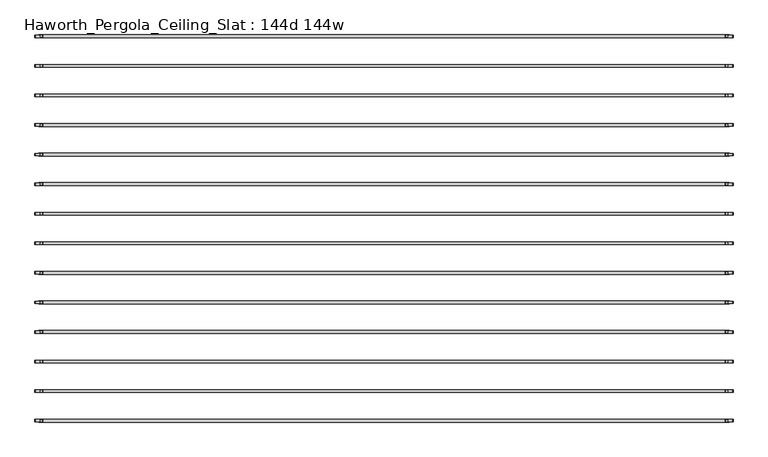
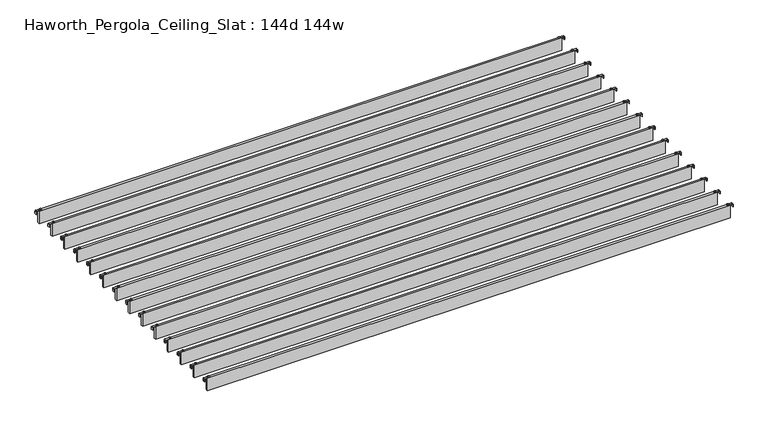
"""IFC4 building model written with IfcOpenShell, lengths in millimetres: furniture geometry, Haworth_Pergola_Ceiling_Slat : 144d 144w."""

from ifc_helpers import new_model, si_unit, point, frame, frame_2d, origin, place, context, project, spatial, polyline, circle_curve, trimmed, segment, composite_curve, outline, extrude, source, transform, mapped, element, save


def haworth_pergola_ceiling_slat_144d_144w_cf5a7e63(model_context):
    return source(origin(), model_context, "Body", "SweptSolid", [
        extrude(outline(composite_curve([segment(trimmed(circle_curve(frame_2d((1853.2, 307.8756087)), 5.9838099), [point((1847.2161901, 307.8756087))], [point((1859.1838099, 307.8756087))], False, "CARTESIAN"), True, "CONTINUOUS"), segment(trimmed(circle_curve(frame_2d((1853.2, 307.8756087)), 5.9838099), [point((1859.1838099, 307.8756087))], [point((1847.2161901, 307.8756087))], False, "CARTESIAN"), True, "CONTINUOUS")], self_intersect=False)), frame((0.0, 0.0, 2440.9329992), z_axis=(0.0, 0.0, 1.0), x_axis=(1.0, 0.0, 0.0)), (0.0, 0.0, 1.0), 3.4400008),
        extrude(outline(composite_curve([segment(trimmed(circle_curve(frame_2d((-1777.0, 307.8756087)), 5.9838099), [point((-1771.0161901, 307.8756087))], [point((-1782.9838099, 307.8756087))], False, "CARTESIAN"), True, "CONTINUOUS"), segment(trimmed(circle_curve(frame_2d((-1777.0, 307.8756087)), 5.9838099), [point((-1782.9838099, 307.8756087))], [point((-1771.0161901, 307.8756087))], False, "CARTESIAN"), True, "CONTINUOUS")], self_intersect=False)), frame((0.0, 0.0, 2440.9329992), z_axis=(0.0, 0.0, 1.0), x_axis=(1.0, 0.0, 0.0)), (0.0, 0.0, 1.0), 3.4400008),
        extrude(outline(composite_curve([segment(polyline([(2419.2231711, 1887.36), (2437.2499992, 1887.36)]), True, "CONTINUOUS"), segment(trimmed(circle_curve(frame_2d((2437.2499992, 1883.677)), 3.683), [point((2437.2499992, 1887.36))], [point((2440.9329992, 1883.677))], False, "CARTESIAN"), True, "CONTINUOUS"), segment(polyline([(2440.9329992, 1883.677), (2440.9329992, 1846.7), (2438.2729997, 1846.7), (2438.2729997, 1883.6905568)]), True, "CONTINUOUS"), segment(trimmed(circle_curve(frame_2d((2437.2635571, 1883.6905568)), 1.0094425), [point((2438.2729997, 1883.6905568))], [point((2437.2635571, 1884.6999993))], True, "CARTESIAN"), True, "CONTINUOUS"), segment(polyline([(2437.2635571, 1884.6999993), (2419.2231711, 1884.6999993), (2419.2231711, 1887.36)]), True, "CONTINUOUS")], self_intersect=False)), frame((0.0, 301.3826084, 0.0), z_axis=(0.0, 1.0, 0.0), x_axis=(0.0, 0.0, 1.0)), (0.0, 0.0, 1.0), 13.0),
        extrude(outline(composite_curve([segment(polyline([(2419.2231711, -1811.16), (2419.2231711, -1808.4999993), (2437.2635571, -1808.4999993)]), True, "CONTINUOUS"), segment(trimmed(circle_curve(frame_2d((2437.2635571, -1807.4905568)), 1.0094425), [point((2437.2635571, -1808.4999993))], [point((2438.2729997, -1807.4905568))], True, "CARTESIAN"), True, "CONTINUOUS"), segment(polyline([(2438.2729997, -1807.4905568), (2438.2729997, -1770.5), (2440.9329992, -1770.5), (2440.9329992, -1807.477)]), True, "CONTINUOUS"), segment(trimmed(circle_curve(frame_2d((2437.2499992, -1807.477)), 3.683), [point((2440.9329992, -1807.477))], [point((2437.2499992, -1811.16))], False, "CARTESIAN"), True, "CONTINUOUS"), segment(polyline([(2437.2499992, -1811.16), (2419.2231711, -1811.16)]), True, "CONTINUOUS")], self_intersect=False)), frame((0.0, 301.3826084, 0.0), z_axis=(0.0, 1.0, 0.0), x_axis=(0.0, 0.0, 1.0)), (0.0, 0.0, 1.0), 13.0),
        extrude(outline(polyline([(-1790.7, 300.3826087), (-1790.7, 315.3686087), (1866.9, 315.3686087), (1866.9, 300.3826087), (-1790.7, 300.3826087)])), frame((0.0, 0.0, 2346.198), z_axis=(0.0, 0.0, 1.0), x_axis=(1.0, 0.0, 0.0)), (0.0, 0.0, 1.0), 92.202),
        extrude(outline(composite_curve([segment(trimmed(circle_curve(frame_2d((1853.2, 151.0582174)), 5.9838099), [point((1847.2161901, 151.0582174))], [point((1859.1838099, 151.0582174))], False, "CARTESIAN"), True, "CONTINUOUS"), segment(trimmed(circle_curve(frame_2d((1853.2, 151.0582174)), 5.9838099), [point((1859.1838099, 151.0582174))], [point((1847.2161901, 151.0582174))], False, "CARTESIAN"), True, "CONTINUOUS")], self_intersect=False)), frame((0.0, 0.0, 2440.9329992), z_axis=(0.0, 0.0, 1.0), x_axis=(1.0, 0.0, 0.0)), (0.0, 0.0, 1.0), 3.4400008),
        extrude(outline(composite_curve([segment(trimmed(circle_curve(frame_2d((-1777.0, 151.0582174)), 5.9838099), [point((-1771.0161901, 151.0582174))], [point((-1782.9838099, 151.0582174))], False, "CARTESIAN"), True, "CONTINUOUS"), segment(trimmed(circle_curve(frame_2d((-1777.0, 151.0582174)), 5.9838099), [point((-1782.9838099, 151.0582174))], [point((-1771.0161901, 151.0582174))], False, "CARTESIAN"), True, "CONTINUOUS")], self_intersect=False)), frame((0.0, 0.0, 2440.9329992), z_axis=(0.0, 0.0, 1.0), x_axis=(1.0, 0.0, 0.0)), (0.0, 0.0, 1.0), 3.4400008),
        extrude(outline(composite_curve([segment(polyline([(2419.2231711, 1887.36), (2437.2499992, 1887.36)]), True, "CONTINUOUS"), segment(trimmed(circle_curve(frame_2d((2437.2499992, 1883.677)), 3.683), [point((2437.2499992, 1887.36))], [point((2440.9329992, 1883.677))], False, "CARTESIAN"), True, "CONTINUOUS"), segment(polyline([(2440.9329992, 1883.677), (2440.9329992, 1846.7), (2438.2729997, 1846.7), (2438.2729997, 1883.6905568)]), True, "CONTINUOUS"), segment(trimmed(circle_curve(frame_2d((2437.2635571, 1883.6905568)), 1.0094425), [point((2438.2729997, 1883.6905568))], [point((2437.2635571, 1884.6999993))], True, "CARTESIAN"), True, "CONTINUOUS"), segment(polyline([(2437.2635571, 1884.6999993), (2419.2231711, 1884.6999993), (2419.2231711, 1887.36)]), True, "CONTINUOUS")], self_intersect=False)), frame((0.0, 144.5652171, 0.0), z_axis=(0.0, 1.0, 0.0), x_axis=(0.0, 0.0, 1.0)), (0.0, 0.0, 1.0), 13.0),
        extrude(outline(composite_curve([segment(polyline([(2419.2231711, -1811.16), (2419.2231711, -1808.4999993), (2437.2635571, -1808.4999993)]), True, "CONTINUOUS"), segment(trimmed(circle_curve(frame_2d((2437.2635571, -1807.4905568)), 1.0094425), [point((2437.2635571, -1808.4999993))], [point((2438.2729997, -1807.4905568))], True, "CARTESIAN"), True, "CONTINUOUS"), segment(polyline([(2438.2729997, -1807.4905568), (2438.2729997, -1770.5), (2440.9329992, -1770.5), (2440.9329992, -1807.477)]), True, "CONTINUOUS"), segment(trimmed(circle_curve(frame_2d((2437.2499992, -1807.477)), 3.683), [point((2440.9329992, -1807.477))], [point((2437.2499992, -1811.16))], False, "CARTESIAN"), True, "CONTINUOUS"), segment(polyline([(2437.2499992, -1811.16), (2419.2231711, -1811.16)]), True, "CONTINUOUS")], self_intersect=False)), frame((0.0, 144.5652171, 0.0), z_axis=(0.0, 1.0, 0.0), x_axis=(0.0, 0.0, 1.0)), (0.0, 0.0, 1.0), 13.0),
        extrude(outline(polyline([(-1790.7, 143.5652174), (-1790.7, 158.5512174), (1866.9, 158.5512174), (1866.9, 143.5652174), (-1790.7, 143.5652174)])), frame((0.0, 0.0, 2346.198), z_axis=(0.0, 0.0, 1.0), x_axis=(1.0, 0.0, 0.0)), (0.0, 0.0, 1.0), 92.202),
        extrude(outline(composite_curve([segment(trimmed(circle_curve(frame_2d((1853.2, -5.7591739)), 5.9838099), [point((1847.2161901, -5.7591739))], [point((1859.1838099, -5.7591739))], False, "CARTESIAN"), True, "CONTINUOUS"), segment(trimmed(circle_curve(frame_2d((1853.2, -5.7591739)), 5.9838099), [point((1859.1838099, -5.7591739))], [point((1847.2161901, -5.7591739))], False, "CARTESIAN"), True, "CONTINUOUS")], self_intersect=False)), frame((0.0, 0.0, 2440.9329992), z_axis=(0.0, 0.0, 1.0), x_axis=(1.0, 0.0, 0.0)), (0.0, 0.0, 1.0), 3.4400008),
        extrude(outline(composite_curve([segment(trimmed(circle_curve(frame_2d((-1777.0, -5.7591739)), 5.9838099), [point((-1771.0161901, -5.7591739))], [point((-1782.9838099, -5.7591739))], False, "CARTESIAN"), True, "CONTINUOUS"), segment(trimmed(circle_curve(frame_2d((-1777.0, -5.7591739)), 5.9838099), [point((-1782.9838099, -5.7591739))], [point((-1771.0161901, -5.7591739))], False, "CARTESIAN"), True, "CONTINUOUS")], self_intersect=False)), frame((0.0, 0.0, 2440.9329992), z_axis=(0.0, 0.0, 1.0), x_axis=(1.0, 0.0, 0.0)), (0.0, 0.0, 1.0), 3.4400008),
        extrude(outline(composite_curve([segment(polyline([(2419.2231711, 1887.36), (2437.2499992, 1887.36)]), True, "CONTINUOUS"), segment(trimmed(circle_curve(frame_2d((2437.2499992, 1883.677)), 3.683), [point((2437.2499992, 1887.36))], [point((2440.9329992, 1883.677))], False, "CARTESIAN"), True, "CONTINUOUS"), segment(polyline([(2440.9329992, 1883.677), (2440.9329992, 1846.7), (2438.2729997, 1846.7), (2438.2729997, 1883.6905568)]), True, "CONTINUOUS"), segment(trimmed(circle_curve(frame_2d((2437.2635571, 1883.6905568)), 1.0094425), [point((2438.2729997, 1883.6905568))], [point((2437.2635571, 1884.6999993))], True, "CARTESIAN"), True, "CONTINUOUS"), segment(polyline([(2437.2635571, 1884.6999993), (2419.2231711, 1884.6999993), (2419.2231711, 1887.36)]), True, "CONTINUOUS")], self_intersect=False)), frame((0.0, -12.2521743, 0.0), z_axis=(0.0, 1.0, 0.0), x_axis=(0.0, 0.0, 1.0)), (0.0, 0.0, 1.0), 13.0),
        extrude(outline(composite_curve([segment(polyline([(2419.2231711, -1811.16), (2419.2231711, -1808.4999993), (2437.2635571, -1808.4999993)]), True, "CONTINUOUS"), segment(trimmed(circle_curve(frame_2d((2437.2635571, -1807.4905568)), 1.0094425), [point((2437.2635571, -1808.4999993))], [point((2438.2729997, -1807.4905568))], True, "CARTESIAN"), True, "CONTINUOUS"), segment(polyline([(2438.2729997, -1807.4905568), (2438.2729997, -1770.5), (2440.9329992, -1770.5), (2440.9329992, -1807.477)]), True, "CONTINUOUS"), segment(trimmed(circle_curve(frame_2d((2437.2499992, -1807.477)), 3.683), [point((2440.9329992, -1807.477))], [point((2437.2499992, -1811.16))], False, "CARTESIAN"), True, "CONTINUOUS"), segment(polyline([(2437.2499992, -1811.16), (2419.2231711, -1811.16)]), True, "CONTINUOUS")], self_intersect=False)), frame((0.0, -12.2521743, 0.0), z_axis=(0.0, 1.0, 0.0), x_axis=(0.0, 0.0, 1.0)), (0.0, 0.0, 1.0), 13.0),
        extrude(outline(polyline([(-1790.7, -13.2521739), (-1790.7, 1.7338261), (1866.9, 1.7338261), (1866.9, -13.2521739), (-1790.7, -13.2521739)])), frame((0.0, 0.0, 2346.198), z_axis=(0.0, 0.0, 1.0), x_axis=(1.0, 0.0, 0.0)), (0.0, 0.0, 1.0), 92.202),
        extrude(outline(composite_curve([segment(trimmed(circle_curve(frame_2d((1853.2, -162.5765652)), 5.9838099), [point((1847.2161901, -162.5765652))], [point((1859.1838099, -162.5765652))], False, "CARTESIAN"), True, "CONTINUOUS"), segment(trimmed(circle_curve(frame_2d((1853.2, -162.5765652)), 5.9838099), [point((1859.1838099, -162.5765652))], [point((1847.2161901, -162.5765652))], False, "CARTESIAN"), True, "CONTINUOUS")], self_intersect=False)), frame((0.0, 0.0, 2440.9329992), z_axis=(0.0, 0.0, 1.0), x_axis=(1.0, 0.0, 0.0)), (0.0, 0.0, 1.0), 3.4400008),
        extrude(outline(composite_curve([segment(trimmed(circle_curve(frame_2d((-1777.0, -162.5765652)), 5.9838099), [point((-1771.0161901, -162.5765652))], [point((-1782.9838099, -162.5765652))], False, "CARTESIAN"), True, "CONTINUOUS"), segment(trimmed(circle_curve(frame_2d((-1777.0, -162.5765652)), 5.9838099), [point((-1782.9838099, -162.5765652))], [point((-1771.0161901, -162.5765652))], False, "CARTESIAN"), True, "CONTINUOUS")], self_intersect=False)), frame((0.0, 0.0, 2440.9329992), z_axis=(0.0, 0.0, 1.0), x_axis=(1.0, 0.0, 0.0)), (0.0, 0.0, 1.0), 3.4400008),
        extrude(outline(composite_curve([segment(polyline([(2419.2231711, 1887.36), (2437.2499992, 1887.36)]), True, "CONTINUOUS"), segment(trimmed(circle_curve(frame_2d((2437.2499992, 1883.677)), 3.683), [point((2437.2499992, 1887.36))], [point((2440.9329992, 1883.677))], False, "CARTESIAN"), True, "CONTINUOUS"), segment(polyline([(2440.9329992, 1883.677), (2440.9329992, 1846.7), (2438.2729997, 1846.7), (2438.2729997, 1883.6905568)]), True, "CONTINUOUS"), segment(trimmed(circle_curve(frame_2d((2437.2635571, 1883.6905568)), 1.0094425), [point((2438.2729997, 1883.6905568))], [point((2437.2635571, 1884.6999993))], True, "CARTESIAN"), True, "CONTINUOUS"), segment(polyline([(2437.2635571, 1884.6999993), (2419.2231711, 1884.6999993), (2419.2231711, 1887.36)]), True, "CONTINUOUS")], self_intersect=False)), frame((0.0, -169.0695656, 0.0), z_axis=(0.0, 1.0, 0.0), x_axis=(0.0, 0.0, 1.0)), (0.0, 0.0, 1.0), 13.0),
        extrude(outline(composite_curve([segment(polyline([(2419.2231711, -1811.16), (2419.2231711, -1808.4999993), (2437.2635571, -1808.4999993)]), True, "CONTINUOUS"), segment(trimmed(circle_curve(frame_2d((2437.2635571, -1807.4905568)), 1.0094425), [point((2437.2635571, -1808.4999993))], [point((2438.2729997, -1807.4905568))], True, "CARTESIAN"), True, "CONTINUOUS"), segment(polyline([(2438.2729997, -1807.4905568), (2438.2729997, -1770.5), (2440.9329992, -1770.5), (2440.9329992, -1807.477)]), True, "CONTINUOUS"), segment(trimmed(circle_curve(frame_2d((2437.2499992, -1807.477)), 3.683), [point((2440.9329992, -1807.477))], [point((2437.2499992, -1811.16))], False, "CARTESIAN"), True, "CONTINUOUS"), segment(polyline([(2437.2499992, -1811.16), (2419.2231711, -1811.16)]), True, "CONTINUOUS")], self_intersect=False)), frame((0.0, -169.0695656, 0.0), z_axis=(0.0, 1.0, 0.0), x_axis=(0.0, 0.0, 1.0)), (0.0, 0.0, 1.0), 13.0),
        extrude(outline(polyline([(-1790.7, -170.0695652), (-1790.7, -155.0835652), (1866.9, -155.0835652), (1866.9, -170.0695652), (-1790.7, -170.0695652)])), frame((0.0, 0.0, 2346.198), z_axis=(0.0, 0.0, 1.0), x_axis=(1.0, 0.0, 0.0)), (0.0, 0.0, 1.0), 92.202),
        extrude(outline(composite_curve([segment(trimmed(circle_curve(frame_2d((1853.2, -319.3939565)), 5.9838099), [point((1847.2161901, -319.3939565))], [point((1859.1838099, -319.3939565))], False, "CARTESIAN"), True, "CONTINUOUS"), segment(trimmed(circle_curve(frame_2d((1853.2, -319.3939565)), 5.9838099), [point((1859.1838099, -319.3939565))], [point((1847.2161901, -319.3939565))], False, "CARTESIAN"), True, "CONTINUOUS")], self_intersect=False)), frame((0.0, 0.0, 2440.9329992), z_axis=(0.0, 0.0, 1.0), x_axis=(1.0, 0.0, 0.0)), (0.0, 0.0, 1.0), 3.4400008),
        extrude(outline(composite_curve([segment(trimmed(circle_curve(frame_2d((-1777.0, -319.3939565)), 5.9838099), [point((-1771.0161901, -319.3939565))], [point((-1782.9838099, -319.3939565))], False, "CARTESIAN"), True, "CONTINUOUS"), segment(trimmed(circle_curve(frame_2d((-1777.0, -319.3939565)), 5.9838099), [point((-1782.9838099, -319.3939565))], [point((-1771.0161901, -319.3939565))], False, "CARTESIAN"), True, "CONTINUOUS")], self_intersect=False)), frame((0.0, 0.0, 2440.9329992), z_axis=(0.0, 0.0, 1.0), x_axis=(1.0, 0.0, 0.0)), (0.0, 0.0, 1.0), 3.4400008),
        extrude(outline(composite_curve([segment(polyline([(2419.2231711, 1887.36), (2437.2499992, 1887.36)]), True, "CONTINUOUS"), segment(trimmed(circle_curve(frame_2d((2437.2499992, 1883.677)), 3.683), [point((2437.2499992, 1887.36))], [point((2440.9329992, 1883.677))], False, "CARTESIAN"), True, "CONTINUOUS"), segment(polyline([(2440.9329992, 1883.677), (2440.9329992, 1846.7), (2438.2729997, 1846.7), (2438.2729997, 1883.6905568)]), True, "CONTINUOUS"), segment(trimmed(circle_curve(frame_2d((2437.2635571, 1883.6905568)), 1.0094425), [point((2438.2729997, 1883.6905568))], [point((2437.2635571, 1884.6999993))], True, "CARTESIAN"), True, "CONTINUOUS"), segment(polyline([(2437.2635571, 1884.6999993), (2419.2231711, 1884.6999993), (2419.2231711, 1887.36)]), True, "CONTINUOUS")], self_intersect=False)), frame((0.0, -325.8869569, 0.0), z_axis=(0.0, 1.0, 0.0), x_axis=(0.0, 0.0, 1.0)), (0.0, 0.0, 1.0), 13.0),
        extrude(outline(composite_curve([segment(polyline([(2419.2231711, -1811.16), (2419.2231711, -1808.4999993), (2437.2635571, -1808.4999993)]), True, "CONTINUOUS"), segment(trimmed(circle_curve(frame_2d((2437.2635571, -1807.4905568)), 1.0094425), [point((2437.2635571, -1808.4999993))], [point((2438.2729997, -1807.4905568))], True, "CARTESIAN"), True, "CONTINUOUS"), segment(polyline([(2438.2729997, -1807.4905568), (2438.2729997, -1770.5), (2440.9329992, -1770.5), (2440.9329992, -1807.477)]), True, "CONTINUOUS"), segment(trimmed(circle_curve(frame_2d((2437.2499992, -1807.477)), 3.683), [point((2440.9329992, -1807.477))], [point((2437.2499992, -1811.16))], False, "CARTESIAN"), True, "CONTINUOUS"), segment(polyline([(2437.2499992, -1811.16), (2419.2231711, -1811.16)]), True, "CONTINUOUS")], self_intersect=False)), frame((0.0, -325.8869569, 0.0), z_axis=(0.0, 1.0, 0.0), x_axis=(0.0, 0.0, 1.0)), (0.0, 0.0, 1.0), 13.0),
        extrude(outline(polyline([(-1790.7, -326.8869565), (-1790.7, -311.9009565), (1866.9, -311.9009565), (1866.9, -326.8869565), (-1790.7, -326.8869565)])), frame((0.0, 0.0, 2346.198), z_axis=(0.0, 0.0, 1.0), x_axis=(1.0, 0.0, 0.0)), (0.0, 0.0, 1.0), 92.202),
        extrude(outline(composite_curve([segment(trimmed(circle_curve(frame_2d((1853.2, -476.2113478)), 5.9838099), [point((1847.2161901, -476.2113478))], [point((1859.1838099, -476.2113478))], False, "CARTESIAN"), True, "CONTINUOUS"), segment(trimmed(circle_curve(frame_2d((1853.2, -476.2113478)), 5.9838099), [point((1859.1838099, -476.2113478))], [point((1847.2161901, -476.2113478))], False, "CARTESIAN"), True, "CONTINUOUS")], self_intersect=False)), frame((0.0, 0.0, 2440.9329992), z_axis=(0.0, 0.0, 1.0), x_axis=(1.0, 0.0, 0.0)), (0.0, 0.0, 1.0), 3.4400008),
        extrude(outline(composite_curve([segment(trimmed(circle_curve(frame_2d((-1777.0, -476.2113478)), 5.9838099), [point((-1771.0161901, -476.2113478))], [point((-1782.9838099, -476.2113478))], False, "CARTESIAN"), True, "CONTINUOUS"), segment(trimmed(circle_curve(frame_2d((-1777.0, -476.2113478)), 5.9838099), [point((-1782.9838099, -476.2113478))], [point((-1771.0161901, -476.2113478))], False, "CARTESIAN"), True, "CONTINUOUS")], self_intersect=False)), frame((0.0, 0.0, 2440.9329992), z_axis=(0.0, 0.0, 1.0), x_axis=(1.0, 0.0, 0.0)), (0.0, 0.0, 1.0), 3.4400008),
        extrude(outline(composite_curve([segment(polyline([(2419.2231711, 1887.36), (2437.2499992, 1887.36)]), True, "CONTINUOUS"), segment(trimmed(circle_curve(frame_2d((2437.2499992, 1883.677)), 3.683), [point((2437.2499992, 1887.36))], [point((2440.9329992, 1883.677))], False, "CARTESIAN"), True, "CONTINUOUS"), segment(polyline([(2440.9329992, 1883.677), (2440.9329992, 1846.7), (2438.2729997, 1846.7), (2438.2729997, 1883.6905568)]), True, "CONTINUOUS"), segment(trimmed(circle_curve(frame_2d((2437.2635571, 1883.6905568)), 1.0094425), [point((2438.2729997, 1883.6905568))], [point((2437.2635571, 1884.6999993))], True, "CARTESIAN"), True, "CONTINUOUS"), segment(polyline([(2437.2635571, 1884.6999993), (2419.2231711, 1884.6999993), (2419.2231711, 1887.36)]), True, "CONTINUOUS")], self_intersect=False)), frame((0.0, -482.7043482, 0.0), z_axis=(0.0, 1.0, 0.0), x_axis=(0.0, 0.0, 1.0)), (0.0, 0.0, 1.0), 13.0),
        extrude(outline(composite_curve([segment(polyline([(2419.2231711, -1811.16), (2419.2231711, -1808.4999993), (2437.2635571, -1808.4999993)]), True, "CONTINUOUS"), segment(trimmed(circle_curve(frame_2d((2437.2635571, -1807.4905568)), 1.0094425), [point((2437.2635571, -1808.4999993))], [point((2438.2729997, -1807.4905568))], True, "CARTESIAN"), True, "CONTINUOUS"), segment(polyline([(2438.2729997, -1807.4905568), (2438.2729997, -1770.5), (2440.9329992, -1770.5), (2440.9329992, -1807.477)]), True, "CONTINUOUS"), segment(trimmed(circle_curve(frame_2d((2437.2499992, -1807.477)), 3.683), [point((2440.9329992, -1807.477))], [point((2437.2499992, -1811.16))], False, "CARTESIAN"), True, "CONTINUOUS"), segment(polyline([(2437.2499992, -1811.16), (2419.2231711, -1811.16)]), True, "CONTINUOUS")], self_intersect=False)), frame((0.0, -482.7043482, 0.0), z_axis=(0.0, 1.0, 0.0), x_axis=(0.0, 0.0, 1.0)), (0.0, 0.0, 1.0), 13.0),
        extrude(outline(polyline([(-1790.7, -483.7043478), (-1790.7, -468.7183478), (1866.9, -468.7183478), (1866.9, -483.7043478), (-1790.7, -483.7043478)])), frame((0.0, 0.0, 2346.198), z_axis=(0.0, 0.0, 1.0), x_axis=(1.0, 0.0, 0.0)), (0.0, 0.0, 1.0), 92.202),
        extrude(outline(composite_curve([segment(trimmed(circle_curve(frame_2d((1853.2, -633.0287391)), 5.9838099), [point((1847.2161901, -633.0287391))], [point((1859.1838099, -633.0287391))], False, "CARTESIAN"), True, "CONTINUOUS"), segment(trimmed(circle_curve(frame_2d((1853.2, -633.0287391)), 5.9838099), [point((1859.1838099, -633.0287391))], [point((1847.2161901, -633.0287391))], False, "CARTESIAN"), True, "CONTINUOUS")], self_intersect=False)), frame((0.0, 0.0, 2440.9329992), z_axis=(0.0, 0.0, 1.0), x_axis=(1.0, 0.0, 0.0)), (0.0, 0.0, 1.0), 3.4400008),
        extrude(outline(composite_curve([segment(trimmed(circle_curve(frame_2d((-1777.0, -633.0287391)), 5.9838099), [point((-1771.0161901, -633.0287391))], [point((-1782.9838099, -633.0287391))], False, "CARTESIAN"), True, "CONTINUOUS"), segment(trimmed(circle_curve(frame_2d((-1777.0, -633.0287391)), 5.9838099), [point((-1782.9838099, -633.0287391))], [point((-1771.0161901, -633.0287391))], False, "CARTESIAN"), True, "CONTINUOUS")], self_intersect=False)), frame((0.0, 0.0, 2440.9329992), z_axis=(0.0, 0.0, 1.0), x_axis=(1.0, 0.0, 0.0)), (0.0, 0.0, 1.0), 3.4400008),
        extrude(outline(composite_curve([segment(polyline([(2419.2231711, 1887.36), (2437.2499992, 1887.36)]), True, "CONTINUOUS"), segment(trimmed(circle_curve(frame_2d((2437.2499992, 1883.677)), 3.683), [point((2437.2499992, 1887.36))], [point((2440.9329992, 1883.677))], False, "CARTESIAN"), True, "CONTINUOUS"), segment(polyline([(2440.9329992, 1883.677), (2440.9329992, 1846.7), (2438.2729997, 1846.7), (2438.2729997, 1883.6905568)]), True, "CONTINUOUS"), segment(trimmed(circle_curve(frame_2d((2437.2635571, 1883.6905568)), 1.0094425), [point((2438.2729997, 1883.6905568))], [point((2437.2635571, 1884.6999993))], True, "CARTESIAN"), True, "CONTINUOUS"), segment(polyline([(2437.2635571, 1884.6999993), (2419.2231711, 1884.6999993), (2419.2231711, 1887.36)]), True, "CONTINUOUS")], self_intersect=False)), frame((0.0, -639.5217395, 0.0), z_axis=(0.0, 1.0, 0.0), x_axis=(0.0, 0.0, 1.0)), (0.0, 0.0, 1.0), 13.0),
        extrude(outline(composite_curve([segment(polyline([(2419.2231711, -1811.16), (2419.2231711, -1808.4999993), (2437.2635571, -1808.4999993)]), True, "CONTINUOUS"), segment(trimmed(circle_curve(frame_2d((2437.2635571, -1807.4905568)), 1.0094425), [point((2437.2635571, -1808.4999993))], [point((2438.2729997, -1807.4905568))], True, "CARTESIAN"), True, "CONTINUOUS"), segment(polyline([(2438.2729997, -1807.4905568), (2438.2729997, -1770.5), (2440.9329992, -1770.5), (2440.9329992, -1807.477)]), True, "CONTINUOUS"), segment(trimmed(circle_curve(frame_2d((2437.2499992, -1807.477)), 3.683), [point((2440.9329992, -1807.477))], [point((2437.2499992, -1811.16))], False, "CARTESIAN"), True, "CONTINUOUS"), segment(polyline([(2437.2499992, -1811.16), (2419.2231711, -1811.16)]), True, "CONTINUOUS")], self_intersect=False)), frame((0.0, -639.5217395, 0.0), z_axis=(0.0, 1.0, 0.0), x_axis=(0.0, 0.0, 1.0)), (0.0, 0.0, 1.0), 13.0),
        extrude(outline(polyline([(-1790.7, -640.5217391), (-1790.7, -625.5357391), (1866.9, -625.5357391), (1866.9, -640.5217391), (-1790.7, -640.5217391)])), frame((0.0, 0.0, 2346.198), z_axis=(0.0, 0.0, 1.0), x_axis=(1.0, 0.0, 0.0)), (0.0, 0.0, 1.0), 92.202),
        extrude(outline(composite_curve([segment(trimmed(circle_curve(frame_2d((1853.2, -789.8461304)), 5.9838099), [point((1847.2161901, -789.8461304))], [point((1859.1838099, -789.8461304))], False, "CARTESIAN"), True, "CONTINUOUS"), segment(trimmed(circle_curve(frame_2d((1853.2, -789.8461304)), 5.9838099), [point((1859.1838099, -789.8461304))], [point((1847.2161901, -789.8461304))], False, "CARTESIAN"), True, "CONTINUOUS")], self_intersect=False)), frame((0.0, 0.0, 2440.9329992), z_axis=(0.0, 0.0, 1.0), x_axis=(1.0, 0.0, 0.0)), (0.0, 0.0, 1.0), 3.4400008),
        extrude(outline(composite_curve([segment(trimmed(circle_curve(frame_2d((-1777.0, -789.8461304)), 5.9838099), [point((-1771.0161901, -789.8461304))], [point((-1782.9838099, -789.8461304))], False, "CARTESIAN"), True, "CONTINUOUS"), segment(trimmed(circle_curve(frame_2d((-1777.0, -789.8461304)), 5.9838099), [point((-1782.9838099, -789.8461304))], [point((-1771.0161901, -789.8461304))], False, "CARTESIAN"), True, "CONTINUOUS")], self_intersect=False)), frame((0.0, 0.0, 2440.9329992), z_axis=(0.0, 0.0, 1.0), x_axis=(1.0, 0.0, 0.0)), (0.0, 0.0, 1.0), 3.4400008),
        extrude(outline(composite_curve([segment(polyline([(2419.2231711, 1887.36), (2437.2499992, 1887.36)]), True, "CONTINUOUS"), segment(trimmed(circle_curve(frame_2d((2437.2499992, 1883.677)), 3.683), [point((2437.2499992, 1887.36))], [point((2440.9329992, 1883.677))], False, "CARTESIAN"), True, "CONTINUOUS"), segment(polyline([(2440.9329992, 1883.677), (2440.9329992, 1846.7), (2438.2729997, 1846.7), (2438.2729997, 1883.6905568)]), True, "CONTINUOUS"), segment(trimmed(circle_curve(frame_2d((2437.2635571, 1883.6905568)), 1.0094425), [point((2438.2729997, 1883.6905568))], [point((2437.2635571, 1884.6999993))], True, "CARTESIAN"), True, "CONTINUOUS"), segment(polyline([(2437.2635571, 1884.6999993), (2419.2231711, 1884.6999993), (2419.2231711, 1887.36)]), True, "CONTINUOUS")], self_intersect=False)), frame((0.0, -796.3391308, 0.0), z_axis=(0.0, 1.0, 0.0), x_axis=(0.0, 0.0, 1.0)), (0.0, 0.0, 1.0), 13.0),
        extrude(outline(composite_curve([segment(polyline([(2419.2231711, -1811.16), (2419.2231711, -1808.4999993), (2437.2635571, -1808.4999993)]), True, "CONTINUOUS"), segment(trimmed(circle_curve(frame_2d((2437.2635571, -1807.4905568)), 1.0094425), [point((2437.2635571, -1808.4999993))], [point((2438.2729997, -1807.4905568))], True, "CARTESIAN"), True, "CONTINUOUS"), segment(polyline([(2438.2729997, -1807.4905568), (2438.2729997, -1770.5), (2440.9329992, -1770.5), (2440.9329992, -1807.477)]), True, "CONTINUOUS"), segment(trimmed(circle_curve(frame_2d((2437.2499992, -1807.477)), 3.683), [point((2440.9329992, -1807.477))], [point((2437.2499992, -1811.16))], False, "CARTESIAN"), True, "CONTINUOUS"), segment(polyline([(2437.2499992, -1811.16), (2419.2231711, -1811.16)]), True, "CONTINUOUS")], self_intersect=False)), frame((0.0, -796.3391308, 0.0), z_axis=(0.0, 1.0, 0.0), x_axis=(0.0, 0.0, 1.0)), (0.0, 0.0, 1.0), 13.0),
        extrude(outline(polyline([(-1790.7, -797.3391304), (-1790.7, -782.3531304), (1866.9, -782.3531304), (1866.9, -797.3391304), (-1790.7, -797.3391304)])), frame((0.0, 0.0, 2346.198), z_axis=(0.0, 0.0, 1.0), x_axis=(1.0, 0.0, 0.0)), (0.0, 0.0, 1.0), 92.202),
        extrude(outline(composite_curve([segment(trimmed(circle_curve(frame_2d((1853.2, -946.6635217)), 5.9838099), [point((1847.2161901, -946.6635217))], [point((1859.1838099, -946.6635217))], False, "CARTESIAN"), True, "CONTINUOUS"), segment(trimmed(circle_curve(frame_2d((1853.2, -946.6635217)), 5.9838099), [point((1859.1838099, -946.6635217))], [point((1847.2161901, -946.6635217))], False, "CARTESIAN"), True, "CONTINUOUS")], self_intersect=False)), frame((0.0, 0.0, 2440.9329992), z_axis=(0.0, 0.0, 1.0), x_axis=(1.0, 0.0, 0.0)), (0.0, 0.0, 1.0), 3.4400008),
        extrude(outline(composite_curve([segment(trimmed(circle_curve(frame_2d((-1777.0, -946.6635217)), 5.9838099), [point((-1771.0161901, -946.6635217))], [point((-1782.9838099, -946.6635217))], False, "CARTESIAN"), True, "CONTINUOUS"), segment(trimmed(circle_curve(frame_2d((-1777.0, -946.6635217)), 5.9838099), [point((-1782.9838099, -946.6635217))], [point((-1771.0161901, -946.6635217))], False, "CARTESIAN"), True, "CONTINUOUS")], self_intersect=False)), frame((0.0, 0.0, 2440.9329992), z_axis=(0.0, 0.0, 1.0), x_axis=(1.0, 0.0, 0.0)), (0.0, 0.0, 1.0), 3.4400008),
        extrude(outline(composite_curve([segment(polyline([(2419.2231711, 1887.36), (2437.2499992, 1887.36)]), True, "CONTINUOUS"), segment(trimmed(circle_curve(frame_2d((2437.2499992, 1883.677)), 3.683), [point((2437.2499992, 1887.36))], [point((2440.9329992, 1883.677))], False, "CARTESIAN"), True, "CONTINUOUS"), segment(polyline([(2440.9329992, 1883.677), (2440.9329992, 1846.7), (2438.2729997, 1846.7), (2438.2729997, 1883.6905568)]), True, "CONTINUOUS"), segment(trimmed(circle_curve(frame_2d((2437.2635571, 1883.6905568)), 1.0094425), [point((2438.2729997, 1883.6905568))], [point((2437.2635571, 1884.6999993))], True, "CARTESIAN"), True, "CONTINUOUS"), segment(polyline([(2437.2635571, 1884.6999993), (2419.2231711, 1884.6999993), (2419.2231711, 1887.36)]), True, "CONTINUOUS")], self_intersect=False)), frame((0.0, -953.1565221, 0.0), z_axis=(0.0, 1.0, 0.0), x_axis=(0.0, 0.0, 1.0)), (0.0, 0.0, 1.0), 13.0),
        extrude(outline(composite_curve([segment(polyline([(2419.2231711, -1811.16), (2419.2231711, -1808.4999993), (2437.2635571, -1808.4999993)]), True, "CONTINUOUS"), segment(trimmed(circle_curve(frame_2d((2437.2635571, -1807.4905568)), 1.0094425), [point((2437.2635571, -1808.4999993))], [point((2438.2729997, -1807.4905568))], True, "CARTESIAN"), True, "CONTINUOUS"), segment(polyline([(2438.2729997, -1807.4905568), (2438.2729997, -1770.5), (2440.9329992, -1770.5), (2440.9329992, -1807.477)]), True, "CONTINUOUS"), segment(trimmed(circle_curve(frame_2d((2437.2499992, -1807.477)), 3.683), [point((2440.9329992, -1807.477))], [point((2437.2499992, -1811.16))], False, "CARTESIAN"), True, "CONTINUOUS"), segment(polyline([(2437.2499992, -1811.16), (2419.2231711, -1811.16)]), True, "CONTINUOUS")], self_intersect=False)), frame((0.0, -953.1565221, 0.0), z_axis=(0.0, 1.0, 0.0), x_axis=(0.0, 0.0, 1.0)), (0.0, 0.0, 1.0), 13.0),
        extrude(outline(polyline([(-1790.7, -954.1565217), (-1790.7, -939.1705217), (1866.9, -939.1705217), (1866.9, -954.1565217), (-1790.7, -954.1565217)])), frame((0.0, 0.0, 2346.198), z_axis=(0.0, 0.0, 1.0), x_axis=(1.0, 0.0, 0.0)), (0.0, 0.0, 1.0), 92.202),
        extrude(outline(composite_curve([segment(trimmed(circle_curve(frame_2d((1853.2, -1103.480913)), 5.9838099), [point((1847.2161901, -1103.480913))], [point((1859.1838099, -1103.480913))], False, "CARTESIAN"), True, "CONTINUOUS"), segment(trimmed(circle_curve(frame_2d((1853.2, -1103.480913)), 5.9838099), [point((1859.1838099, -1103.480913))], [point((1847.2161901, -1103.480913))], False, "CARTESIAN"), True, "CONTINUOUS")], self_intersect=False)), frame((0.0, 0.0, 2440.9329992), z_axis=(0.0, 0.0, 1.0), x_axis=(1.0, 0.0, 0.0)), (0.0, 0.0, 1.0), 3.4400008),
        extrude(outline(composite_curve([segment(trimmed(circle_curve(frame_2d((-1777.0, -1103.480913)), 5.9838099), [point((-1771.0161901, -1103.480913))], [point((-1782.9838099, -1103.480913))], False, "CARTESIAN"), True, "CONTINUOUS"), segment(trimmed(circle_curve(frame_2d((-1777.0, -1103.480913)), 5.9838099), [point((-1782.9838099, -1103.480913))], [point((-1771.0161901, -1103.480913))], False, "CARTESIAN"), True, "CONTINUOUS")], self_intersect=False)), frame((0.0, 0.0, 2440.9329992), z_axis=(0.0, 0.0, 1.0), x_axis=(1.0, 0.0, 0.0)), (0.0, 0.0, 1.0), 3.4400008),
        extrude(outline(composite_curve([segment(polyline([(2419.2231711, 1887.36), (2437.2499992, 1887.36)]), True, "CONTINUOUS"), segment(trimmed(circle_curve(frame_2d((2437.2499992, 1883.677)), 3.683), [point((2437.2499992, 1887.36))], [point((2440.9329992, 1883.677))], False, "CARTESIAN"), True, "CONTINUOUS"), segment(polyline([(2440.9329992, 1883.677), (2440.9329992, 1846.7), (2438.2729997, 1846.7), (2438.2729997, 1883.6905568)]), True, "CONTINUOUS"), segment(trimmed(circle_curve(frame_2d((2437.2635571, 1883.6905568)), 1.0094425), [point((2438.2729997, 1883.6905568))], [point((2437.2635571, 1884.6999993))], True, "CARTESIAN"), True, "CONTINUOUS"), segment(polyline([(2437.2635571, 1884.6999993), (2419.2231711, 1884.6999993), (2419.2231711, 1887.36)]), True, "CONTINUOUS")], self_intersect=False)), frame((0.0, -1109.9739134, 0.0), z_axis=(0.0, 1.0, 0.0), x_axis=(0.0, 0.0, 1.0)), (0.0, 0.0, 1.0), 13.0),
        extrude(outline(composite_curve([segment(polyline([(2419.2231711, -1811.16), (2419.2231711, -1808.4999993), (2437.2635571, -1808.4999993)]), True, "CONTINUOUS"), segment(trimmed(circle_curve(frame_2d((2437.2635571, -1807.4905568)), 1.0094425), [point((2437.2635571, -1808.4999993))], [point((2438.2729997, -1807.4905568))], True, "CARTESIAN"), True, "CONTINUOUS"), segment(polyline([(2438.2729997, -1807.4905568), (2438.2729997, -1770.5), (2440.9329992, -1770.5), (2440.9329992, -1807.477)]), True, "CONTINUOUS"), segment(trimmed(circle_curve(frame_2d((2437.2499992, -1807.477)), 3.683), [point((2440.9329992, -1807.477))], [point((2437.2499992, -1811.16))], False, "CARTESIAN"), True, "CONTINUOUS"), segment(polyline([(2437.2499992, -1811.16), (2419.2231711, -1811.16)]), True, "CONTINUOUS")], self_intersect=False)), frame((0.0, -1109.9739134, 0.0), z_axis=(0.0, 1.0, 0.0), x_axis=(0.0, 0.0, 1.0)), (0.0, 0.0, 1.0), 13.0),
        extrude(outline(polyline([(-1790.7, -1110.973913), (-1790.7, -1095.987913), (1866.9, -1095.987913), (1866.9, -1110.973913), (-1790.7, -1110.973913)])), frame((0.0, 0.0, 2346.198), z_axis=(0.0, 0.0, 1.0), x_axis=(1.0, 0.0, 0.0)), (0.0, 0.0, 1.0), 92.202),
        extrude(outline(composite_curve([segment(trimmed(circle_curve(frame_2d((1853.2, -1260.2983043)), 5.9838099), [point((1847.2161901, -1260.2983043))], [point((1859.1838099, -1260.2983043))], False, "CARTESIAN"), True, "CONTINUOUS"), segment(trimmed(circle_curve(frame_2d((1853.2, -1260.2983043)), 5.9838099), [point((1859.1838099, -1260.2983043))], [point((1847.2161901, -1260.2983043))], False, "CARTESIAN"), True, "CONTINUOUS")], self_intersect=False)), frame((0.0, 0.0, 2440.9329992), z_axis=(0.0, 0.0, 1.0), x_axis=(1.0, 0.0, 0.0)), (0.0, 0.0, 1.0), 3.4400008),
        extrude(outline(composite_curve([segment(trimmed(circle_curve(frame_2d((-1777.0, -1260.2983043)), 5.9838099), [point((-1771.0161901, -1260.2983043))], [point((-1782.9838099, -1260.2983043))], False, "CARTESIAN"), True, "CONTINUOUS"), segment(trimmed(circle_curve(frame_2d((-1777.0, -1260.2983043)), 5.9838099), [point((-1782.9838099, -1260.2983043))], [point((-1771.0161901, -1260.2983043))], False, "CARTESIAN"), True, "CONTINUOUS")], self_intersect=False)), frame((0.0, 0.0, 2440.9329992), z_axis=(0.0, 0.0, 1.0), x_axis=(1.0, 0.0, 0.0)), (0.0, 0.0, 1.0), 3.4400008),
        extrude(outline(composite_curve([segment(polyline([(2419.2231711, 1887.36), (2437.2499992, 1887.36)]), True, "CONTINUOUS"), segment(trimmed(circle_curve(frame_2d((2437.2499992, 1883.677)), 3.683), [point((2437.2499992, 1887.36))], [point((2440.9329992, 1883.677))], False, "CARTESIAN"), True, "CONTINUOUS"), segment(polyline([(2440.9329992, 1883.677), (2440.9329992, 1846.7), (2438.2729997, 1846.7), (2438.2729997, 1883.6905568)]), True, "CONTINUOUS"), segment(trimmed(circle_curve(frame_2d((2437.2635571, 1883.6905568)), 1.0094425), [point((2438.2729997, 1883.6905568))], [point((2437.2635571, 1884.6999993))], True, "CARTESIAN"), True, "CONTINUOUS"), segment(polyline([(2437.2635571, 1884.6999993), (2419.2231711, 1884.6999993), (2419.2231711, 1887.36)]), True, "CONTINUOUS")], self_intersect=False)), frame((0.0, -1266.7913047, 0.0), z_axis=(0.0, 1.0, 0.0), x_axis=(0.0, 0.0, 1.0)), (0.0, 0.0, 1.0), 13.0),
        extrude(outline(composite_curve([segment(polyline([(2419.2231711, -1811.16), (2419.2231711, -1808.4999993), (2437.2635571, -1808.4999993)]), True, "CONTINUOUS"), segment(trimmed(circle_curve(frame_2d((2437.2635571, -1807.4905568)), 1.0094425), [point((2437.2635571, -1808.4999993))], [point((2438.2729997, -1807.4905568))], True, "CARTESIAN"), True, "CONTINUOUS"), segment(polyline([(2438.2729997, -1807.4905568), (2438.2729997, -1770.5), (2440.9329992, -1770.5), (2440.9329992, -1807.477)]), True, "CONTINUOUS"), segment(trimmed(circle_curve(frame_2d((2437.2499992, -1807.477)), 3.683), [point((2440.9329992, -1807.477))], [point((2437.2499992, -1811.16))], False, "CARTESIAN"), True, "CONTINUOUS"), segment(polyline([(2437.2499992, -1811.16), (2419.2231711, -1811.16)]), True, "CONTINUOUS")], self_intersect=False)), frame((0.0, -1266.7913047, 0.0), z_axis=(0.0, 1.0, 0.0), x_axis=(0.0, 0.0, 1.0)), (0.0, 0.0, 1.0), 13.0),
        extrude(outline(polyline([(-1790.7, -1267.7913043), (-1790.7, -1252.8053043), (1866.9, -1252.8053043), (1866.9, -1267.7913043), (-1790.7, -1267.7913043)])), frame((0.0, 0.0, 2346.198), z_axis=(0.0, 0.0, 1.0), x_axis=(1.0, 0.0, 0.0)), (0.0, 0.0, 1.0), 92.202),
        extrude(outline(composite_curve([segment(trimmed(circle_curve(frame_2d((1853.2, -1417.1156957)), 5.9838099), [point((1847.2161901, -1417.1156957))], [point((1859.1838099, -1417.1156957))], False, "CARTESIAN"), True, "CONTINUOUS"), segment(trimmed(circle_curve(frame_2d((1853.2, -1417.1156957)), 5.9838099), [point((1859.1838099, -1417.1156957))], [point((1847.2161901, -1417.1156957))], False, "CARTESIAN"), True, "CONTINUOUS")], self_intersect=False)), frame((0.0, 0.0, 2440.9329992), z_axis=(0.0, 0.0, 1.0), x_axis=(1.0, 0.0, 0.0)), (0.0, 0.0, 1.0), 3.4400008),
        extrude(outline(composite_curve([segment(trimmed(circle_curve(frame_2d((-1777.0, -1417.1156957)), 5.9838099), [point((-1771.0161901, -1417.1156957))], [point((-1782.9838099, -1417.1156957))], False, "CARTESIAN"), True, "CONTINUOUS"), segment(trimmed(circle_curve(frame_2d((-1777.0, -1417.1156957)), 5.9838099), [point((-1782.9838099, -1417.1156957))], [point((-1771.0161901, -1417.1156957))], False, "CARTESIAN"), True, "CONTINUOUS")], self_intersect=False)), frame((0.0, 0.0, 2440.9329992), z_axis=(0.0, 0.0, 1.0), x_axis=(1.0, 0.0, 0.0)), (0.0, 0.0, 1.0), 3.4400008),
        extrude(outline(composite_curve([segment(polyline([(2419.2231711, 1887.36), (2437.2499992, 1887.36)]), True, "CONTINUOUS"), segment(trimmed(circle_curve(frame_2d((2437.2499992, 1883.677)), 3.683), [point((2437.2499992, 1887.36))], [point((2440.9329992, 1883.677))], False, "CARTESIAN"), True, "CONTINUOUS"), segment(polyline([(2440.9329992, 1883.677), (2440.9329992, 1846.7), (2438.2729997, 1846.7), (2438.2729997, 1883.6905568)]), True, "CONTINUOUS"), segment(trimmed(circle_curve(frame_2d((2437.2635571, 1883.6905568)), 1.0094425), [point((2438.2729997, 1883.6905568))], [point((2437.2635571, 1884.6999993))], True, "CARTESIAN"), True, "CONTINUOUS"), segment(polyline([(2437.2635571, 1884.6999993), (2419.2231711, 1884.6999993), (2419.2231711, 1887.36)]), True, "CONTINUOUS")], self_intersect=False)), frame((0.0, -1423.608696, 0.0), z_axis=(0.0, 1.0, 0.0), x_axis=(0.0, 0.0, 1.0)), (0.0, 0.0, 1.0), 13.0),
        extrude(outline(composite_curve([segment(polyline([(2419.2231711, -1811.16), (2419.2231711, -1808.4999993), (2437.2635571, -1808.4999993)]), True, "CONTINUOUS"), segment(trimmed(circle_curve(frame_2d((2437.2635571, -1807.4905568)), 1.0094425), [point((2437.2635571, -1808.4999993))], [point((2438.2729997, -1807.4905568))], True, "CARTESIAN"), True, "CONTINUOUS"), segment(polyline([(2438.2729997, -1807.4905568), (2438.2729997, -1770.5), (2440.9329992, -1770.5), (2440.9329992, -1807.477)]), True, "CONTINUOUS"), segment(trimmed(circle_curve(frame_2d((2437.2499992, -1807.477)), 3.683), [point((2440.9329992, -1807.477))], [point((2437.2499992, -1811.16))], False, "CARTESIAN"), True, "CONTINUOUS"), segment(polyline([(2437.2499992, -1811.16), (2419.2231711, -1811.16)]), True, "CONTINUOUS")], self_intersect=False)), frame((0.0, -1423.608696, 0.0), z_axis=(0.0, 1.0, 0.0), x_axis=(0.0, 0.0, 1.0)), (0.0, 0.0, 1.0), 13.0),
        extrude(outline(polyline([(-1790.7, -1424.6086957), (-1790.7, -1409.6226957), (1866.9, -1409.6226957), (1866.9, -1424.6086957), (-1790.7, -1424.6086957)])), frame((0.0, 0.0, 2346.198), z_axis=(0.0, 0.0, 1.0), x_axis=(1.0, 0.0, 0.0)), (0.0, 0.0, 1.0), 92.202),
        extrude(outline(composite_curve([segment(trimmed(circle_curve(frame_2d((1853.2, -1573.933087)), 5.9838099), [point((1847.2161901, -1573.933087))], [point((1859.1838099, -1573.933087))], False, "CARTESIAN"), True, "CONTINUOUS"), segment(trimmed(circle_curve(frame_2d((1853.2, -1573.933087)), 5.9838099), [point((1859.1838099, -1573.933087))], [point((1847.2161901, -1573.933087))], False, "CARTESIAN"), True, "CONTINUOUS")], self_intersect=False)), frame((0.0, 0.0, 2440.9329992), z_axis=(0.0, 0.0, 1.0), x_axis=(1.0, 0.0, 0.0)), (0.0, 0.0, 1.0), 3.4400008),
        extrude(outline(composite_curve([segment(trimmed(circle_curve(frame_2d((-1777.0, -1573.933087)), 5.9838099), [point((-1771.0161901, -1573.933087))], [point((-1782.9838099, -1573.933087))], False, "CARTESIAN"), True, "CONTINUOUS"), segment(trimmed(circle_curve(frame_2d((-1777.0, -1573.933087)), 5.9838099), [point((-1782.9838099, -1573.933087))], [point((-1771.0161901, -1573.933087))], False, "CARTESIAN"), True, "CONTINUOUS")], self_intersect=False)), frame((0.0, 0.0, 2440.9329992), z_axis=(0.0, 0.0, 1.0), x_axis=(1.0, 0.0, 0.0)), (0.0, 0.0, 1.0), 3.4400008),
        extrude(outline(composite_curve([segment(polyline([(2419.2231711, 1887.36), (2437.2499992, 1887.36)]), True, "CONTINUOUS"), segment(trimmed(circle_curve(frame_2d((2437.2499992, 1883.677)), 3.683), [point((2437.2499992, 1887.36))], [point((2440.9329992, 1883.677))], False, "CARTESIAN"), True, "CONTINUOUS"), segment(polyline([(2440.9329992, 1883.677), (2440.9329992, 1846.7), (2438.2729997, 1846.7), (2438.2729997, 1883.6905568)]), True, "CONTINUOUS"), segment(trimmed(circle_curve(frame_2d((2437.2635571, 1883.6905568)), 1.0094425), [point((2438.2729997, 1883.6905568))], [point((2437.2635571, 1884.6999993))], True, "CARTESIAN"), True, "CONTINUOUS"), segment(polyline([(2437.2635571, 1884.6999993), (2419.2231711, 1884.6999993), (2419.2231711, 1887.36)]), True, "CONTINUOUS")], self_intersect=False)), frame((0.0, -1580.4260873, 0.0), z_axis=(0.0, 1.0, 0.0), x_axis=(0.0, 0.0, 1.0)), (0.0, 0.0, 1.0), 13.0),
        extrude(outline(composite_curve([segment(polyline([(2419.2231711, -1811.16), (2419.2231711, -1808.4999993), (2437.2635571, -1808.4999993)]), True, "CONTINUOUS"), segment(trimmed(circle_curve(frame_2d((2437.2635571, -1807.4905568)), 1.0094425), [point((2437.2635571, -1808.4999993))], [point((2438.2729997, -1807.4905568))], True, "CARTESIAN"), True, "CONTINUOUS"), segment(polyline([(2438.2729997, -1807.4905568), (2438.2729997, -1770.5), (2440.9329992, -1770.5), (2440.9329992, -1807.477)]), True, "CONTINUOUS"), segment(trimmed(circle_curve(frame_2d((2437.2499992, -1807.477)), 3.683), [point((2440.9329992, -1807.477))], [point((2437.2499992, -1811.16))], False, "CARTESIAN"), True, "CONTINUOUS"), segment(polyline([(2437.2499992, -1811.16), (2419.2231711, -1811.16)]), True, "CONTINUOUS")], self_intersect=False)), frame((0.0, -1580.4260873, 0.0), z_axis=(0.0, 1.0, 0.0), x_axis=(0.0, 0.0, 1.0)), (0.0, 0.0, 1.0), 13.0),
        extrude(outline(polyline([(-1790.7, -1581.426087), (-1790.7, -1566.440087), (1866.9, -1566.440087), (1866.9, -1581.426087), (-1790.7, -1581.426087)])), frame((0.0, 0.0, 2346.198), z_axis=(0.0, 0.0, 1.0), x_axis=(1.0, 0.0, 0.0)), (0.0, 0.0, 1.0), 92.202),
        extrude(outline(composite_curve([segment(trimmed(circle_curve(frame_2d((1853.2, -1730.7504783)), 5.9838099), [point((1847.2161901, -1730.7504783))], [point((1859.1838099, -1730.7504783))], False, "CARTESIAN"), True, "CONTINUOUS"), segment(trimmed(circle_curve(frame_2d((1853.2, -1730.7504783)), 5.9838099), [point((1859.1838099, -1730.7504783))], [point((1847.2161901, -1730.7504783))], False, "CARTESIAN"), True, "CONTINUOUS")], self_intersect=False)), frame((0.0, 0.0, 2440.9329992), z_axis=(0.0, 0.0, 1.0), x_axis=(1.0, 0.0, 0.0)), (0.0, 0.0, 1.0), 3.4400008),
        extrude(outline(composite_curve([segment(trimmed(circle_curve(frame_2d((-1777.0, -1730.7504783)), 5.9838099), [point((-1771.0161901, -1730.7504783))], [point((-1782.9838099, -1730.7504783))], False, "CARTESIAN"), True, "CONTINUOUS"), segment(trimmed(circle_curve(frame_2d((-1777.0, -1730.7504783)), 5.9838099), [point((-1782.9838099, -1730.7504783))], [point((-1771.0161901, -1730.7504783))], False, "CARTESIAN"), True, "CONTINUOUS")], self_intersect=False)), frame((0.0, 0.0, 2440.9329992), z_axis=(0.0, 0.0, 1.0), x_axis=(1.0, 0.0, 0.0)), (0.0, 0.0, 1.0), 3.4400008),
        extrude(outline(composite_curve([segment(polyline([(2419.2231711, 1887.36), (2437.2499992, 1887.36)]), True, "CONTINUOUS"), segment(trimmed(circle_curve(frame_2d((2437.2499992, 1883.677)), 3.683), [point((2437.2499992, 1887.36))], [point((2440.9329992, 1883.677))], False, "CARTESIAN"), True, "CONTINUOUS"), segment(polyline([(2440.9329992, 1883.677), (2440.9329992, 1846.7), (2438.2729997, 1846.7), (2438.2729997, 1883.6905568)]), True, "CONTINUOUS"), segment(trimmed(circle_curve(frame_2d((2437.2635571, 1883.6905568)), 1.0094425), [point((2438.2729997, 1883.6905568))], [point((2437.2635571, 1884.6999993))], True, "CARTESIAN"), True, "CONTINUOUS"), segment(polyline([(2437.2635571, 1884.6999993), (2419.2231711, 1884.6999993), (2419.2231711, 1887.36)]), True, "CONTINUOUS")], self_intersect=False)), frame((0.0, -1737.2434786, 0.0), z_axis=(0.0, 1.0, 0.0), x_axis=(0.0, 0.0, 1.0)), (0.0, 0.0, 1.0), 13.0),
        extrude(outline(composite_curve([segment(polyline([(2419.2231711, -1811.16), (2419.2231711, -1808.4999993), (2437.2635571, -1808.4999993)]), True, "CONTINUOUS"), segment(trimmed(circle_curve(frame_2d((2437.2635571, -1807.4905568)), 1.0094425), [point((2437.2635571, -1808.4999993))], [point((2438.2729997, -1807.4905568))], True, "CARTESIAN"), True, "CONTINUOUS"), segment(polyline([(2438.2729997, -1807.4905568), (2438.2729997, -1770.5), (2440.9329992, -1770.5), (2440.9329992, -1807.477)]), True, "CONTINUOUS"), segment(trimmed(circle_curve(frame_2d((2437.2499992, -1807.477)), 3.683), [point((2440.9329992, -1807.477))], [point((2437.2499992, -1811.16))], False, "CARTESIAN"), True, "CONTINUOUS"), segment(polyline([(2437.2499992, -1811.16), (2419.2231711, -1811.16)]), True, "CONTINUOUS")], self_intersect=False)), frame((0.0, -1737.2434786, 0.0), z_axis=(0.0, 1.0, 0.0), x_axis=(0.0, 0.0, 1.0)), (0.0, 0.0, 1.0), 13.0),
        extrude(outline(polyline([(-1790.7, -1738.2434783), (-1790.7, -1723.2574783), (1866.9, -1723.2574783), (1866.9, -1738.2434783), (-1790.7, -1738.2434783)])), frame((0.0, 0.0, 2346.198), z_axis=(0.0, 0.0, 1.0), x_axis=(1.0, 0.0, 0.0)), (0.0, 0.0, 1.0), 92.202),
    ])


if __name__ == "__main__":
    model = new_model("IFC4")
    model_context = context("Model", 3, world=origin())
    ifc_project = project(units=[si_unit("LENGTHUNIT", "METRE", prefix="MILLI")], contexts=[model_context])
    site = spatial("IfcSite", under=ifc_project)
    building = spatial("IfcBuilding", under=site)
    placement = place(None, origin())
    haworth_pergola_ceiling_slat_144d_144w_shape = haworth_pergola_ceiling_slat_144d_144w_cf5a7e63(model_context)
    element("IfcFurniture", 1, ObjectType="Haworth_Pergola_Ceiling_Slat : 144d 144w", at=placement, inside=building, context=model_context, shape_type="MappedRepresentation", body=[
        mapped(haworth_pergola_ceiling_slat_144d_144w_shape, transform((0.0, 0.0, 0.0), x_axis=(1.0, 0.0, 0.0), y_axis=(0.0, 1.0, 0.0), z_axis=(0.0, 0.0, 1.0))),
    ])
    save(model, "model.ifc")
